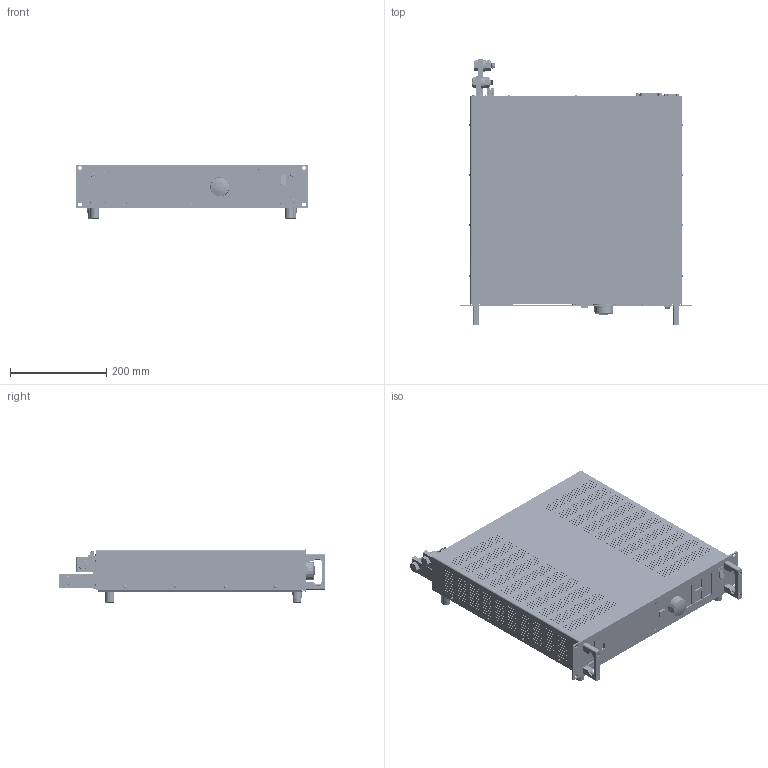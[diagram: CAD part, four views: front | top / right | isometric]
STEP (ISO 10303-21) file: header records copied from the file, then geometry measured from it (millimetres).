
FILE_DESCRIPTION(('STEP AP214'),'1');
FILE_NAME('SCL_M119Z_2HE_FKS30_10_SM12_3D_01.step','2021-12-20T09:13:12',(' '),(' '),'Spatial InterOp 3D',' ',' ');
FILE_SCHEMA(('AUTOMOTIVE_DESIGN { 1 0 10303 214 1 1 1 1 }'));
Length unit declared in the file: millimetre
Products named in the file (26): 2313_SCL Bodenblech_03; A$C5EF2ED09; 3xM2.5_5x5x12; AutoCreatedBlock_1502; A$C61BB1486; 2319_SCL Rückwand_3D_02_mit_Einbauten; 2325_SCL Isolierblock Eingang_3D_01; *U222; *U223; *U224; *U225; *U226; *U227; AutoCreatedBlock_1498; 275_DECK_3D_02; DIN 7985-A; DIN 933; DIN 126; DIN 127-B; DIN 934-B-FINE; 2323_SCL Querprofil Rückwand_3D_01; 2070_ACL_Frontplatte_2HE_3D_02_mit_Einbauten_01; A$C61A611E1; AutoCreatedBlock_1534; AutoCreatedBlock_1489
Assembly tree (48 placements, depth 5):
  (unnamed)
    2313_SCL Bodenblech_03
    2319_SCL Rückwand_3D_02_mit_Einbauten
      A$C61BB1486
        A$C5EF2ED09
          3xM2.5_5x5x12  x2
          AutoCreatedBlock_1502
      2325_SCL Isolierblock Eingang_3D_01
      *U222
      *U223  x2
      *U224  x2
      *U225  x3
      *U226  x2
      *U227  x2
      AutoCreatedBlock_1498
    275_DECK_3D_02
    DIN 7985-A  x11
    DIN 933  x2
    DIN 126  x4
    DIN 127-B  x2
    DIN 934-B-FINE  x2
    2323_SCL Querprofil Rückwand_3D_01
    2070_ACL_Frontplatte_2HE_3D_02_mit_Einbauten_01
      A$C61A611E1
      AutoCreatedBlock_1534
    AutoCreatedBlock_1489
Bounding box: 482.6 x 554.05 x 110.55 mm (x, y, z)
Volume: 15517140.1 mm3; surface area: 1770620.3 mm2
Topology: 156 solids, 158 shells, 14023 faces, 37614 edges, 24306 vertices
Faces by surface type: plane 6934, cylinder 3980, cone 2349, bspline 338, torus 290, sphere 130, extrusion 2
Entity records: 572208 total; most frequent: CARTESIAN_POINT 129287, DIRECTION 70021, ORIENTED_EDGE 69692, EDGE_CURVE 34846, AXIS2_PLACEMENT_3D 23610, VECTOR 22801, LINE 22799, VERTEX_POINT 22356
